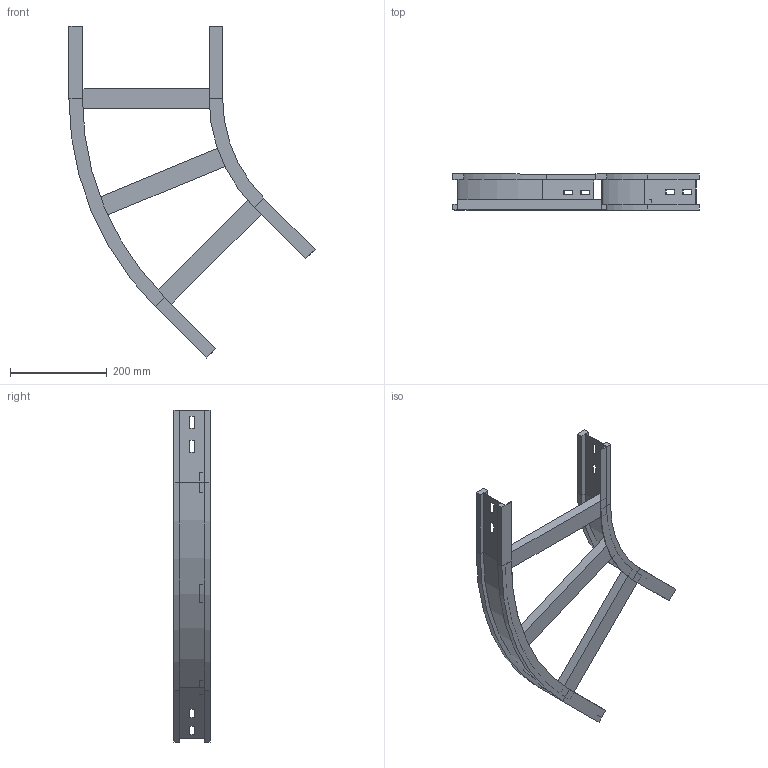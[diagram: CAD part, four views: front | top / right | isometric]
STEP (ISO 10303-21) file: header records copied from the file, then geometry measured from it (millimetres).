
FILE_DESCRIPTION (( 'STEP AP214' ), '1' );
FILE_NAME ('11S3C300.step', '2025-02-21T16:05:25', ( '' ), ( '' ), 'SwSTEP 2.0', 'SolidWorks 2023', '' );
FILE_SCHEMA (( 'AUTOMOTIVE_DESIGN' ));
Length unit declared in the file: millimetre
Products named in the file (4): LONGH.ESTERNO 45°_H75_R300+300; TRAVERSINO_300; 11S3C300; LONGH.INTERNO 45°_H75_R300
Assembly tree (5 placements, depth 2):
  11S3C300
    LONGH.INTERNO 45°_H75_R300
    LONGH.ESTERNO 45°_H75_R300+300
    TRAVERSINO_300  x3
Bounding box: 509.3 x 75 x 686.69 mm (x, y, z)
Volume: 1362964.5 mm3; surface area: 434652 mm2
Topology: 5 solids, 5 shells, 126 faces, 300 edges, 184 vertices
Faces by surface type: plane 114, cylinder 12
Entity records: 3389 total; most frequent: CARTESIAN_POINT 566, ORIENTED_EDGE 552, DIRECTION 544, EDGE_CURVE 276, LINE 252, VECTOR 252, VERTEX_POINT 168, AXIS2_PLACEMENT_3D 146
